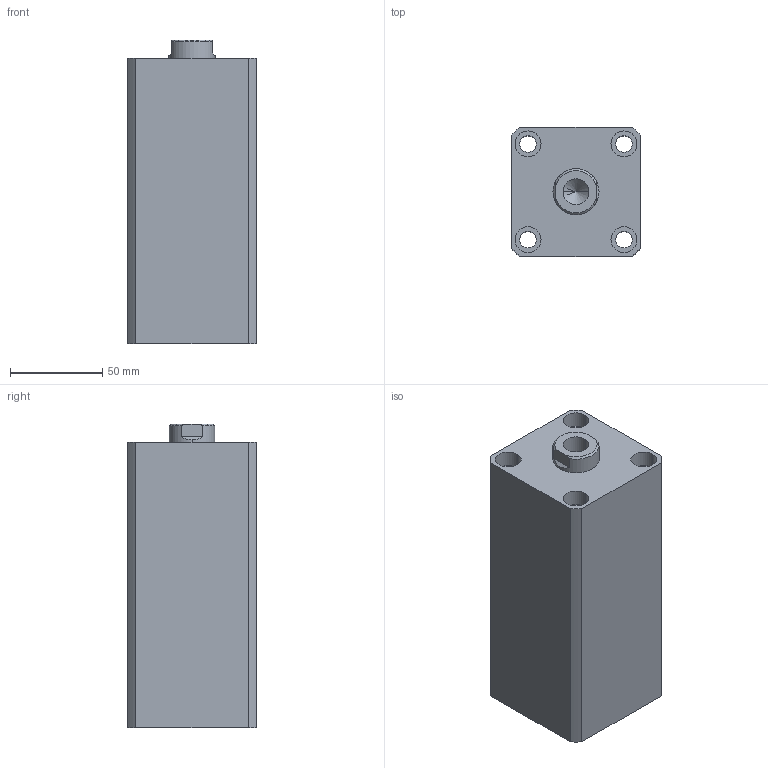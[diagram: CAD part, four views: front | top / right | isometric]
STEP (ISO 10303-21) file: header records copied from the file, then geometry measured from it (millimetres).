
FILE_DESCRIPTION (( 'STEP AP203' ), '1' );
FILE_NAME ('HTB-SDMB40-100N.STEP', '2019-10-09T02:22:47', ( '微软用户' ), ( '微软中国' ), 'SwSTEP 2.0', 'SolidWorks 2012', '' );
FILE_SCHEMA (( 'CONFIG_CONTROL_DESIGN' ));
Length unit declared in the file: millimetre
Products named in the file (3): HTB-SDMB40-100N; HTB-SDMB40-100N活塞杆; HTB-SDMB40-100掛极
Assembly tree (2 placements, depth 2):
  HTB-SDMB40-100N
    HTB-SDMB40-100掛极
    HTB-SDMB40-100N活塞杆
Bounding box: 70 x 70 x 165 mm (x, y, z)
Volume: 631553.4 mm3; surface area: 105105.2 mm2
Topology: 2 solids, 2 shells, 137 faces, 331 edges, 217 vertices
Faces by surface type: plane 65, cylinder 46, bspline 16, torus 6, cone 4
Entity records: 5074 total; most frequent: CARTESIAN_POINT 1580, ORIENTED_EDGE 658, DIRECTION 647, EDGE_CURVE 329, AXIS2_PLACEMENT_3D 232, VERTEX_POINT 217, VECTOR 183, LINE 183
